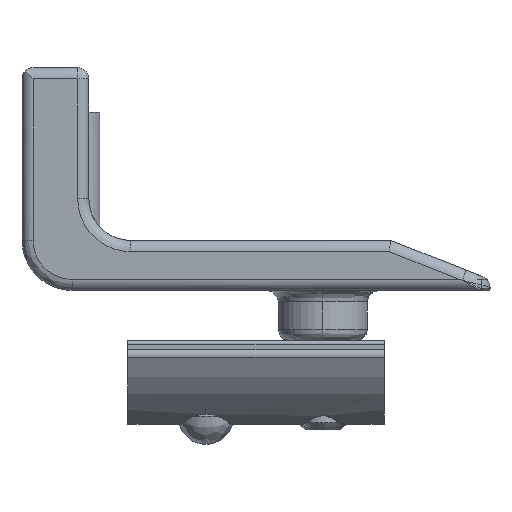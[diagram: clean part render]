
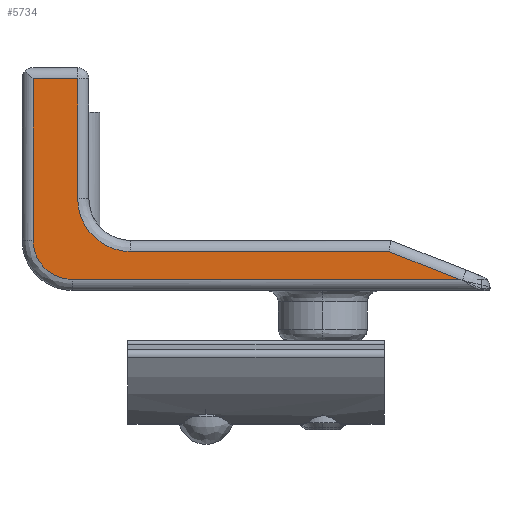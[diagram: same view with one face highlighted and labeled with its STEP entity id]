
A CAD part, front view. The second image highlights one B-rep face of the part: STEP entity #5734.
In plain terms, the highlighted planar face has unit normal (0, -1, 0) as drawn and (-1, 0, 0) by its records, which use the part's own axes.
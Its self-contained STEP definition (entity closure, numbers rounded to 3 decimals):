
#87 = EDGE_CURVE ( 'NONE', #8878, #188, #12185, .T. ) ;
#130 = EDGE_CURVE ( 'NONE', #3517, #1076, #8358, .T. ) ;
#188 = VERTEX_POINT ( 'NONE', #11809 ) ;
#366 = ORIENTED_EDGE ( 'NONE', *, *, #7724, .F. ) ;
#517 = CARTESIAN_POINT ( 'NONE',  ( -20., 14.032, 3.5 ) ) ;
#569 = DIRECTION ( 'NONE',  ( 0., -1., 0. ) ) ;
#693 = CARTESIAN_POINT ( 'NONE',  ( -20., 21., 1. ) ) ;
#817 = CARTESIAN_POINT ( 'NONE',  ( -20., 20., 19. ) ) ;
#833 = CARTESIAN_POINT ( 'NONE',  ( -20., 16.5, 1. ) ) ;
#933 = CARTESIAN_POINT ( 'NONE',  ( -20., -18.257, 1. ) ) ;
#1009 = CARTESIAN_POINT ( 'NONE',  ( -20., -21., 3.5 ) ) ;
#1076 = VERTEX_POINT ( 'NONE', #2542 ) ;
#1134 = VERTEX_POINT ( 'NONE', #5488 ) ;
#1530 = CARTESIAN_POINT ( 'NONE',  ( -20., 21., 19. ) ) ;
#1562 = VECTOR ( 'NONE', #3799, 1000. ) ;
#1572 =( BOUNDED_CURVE ( )  B_SPLINE_CURVE ( 3, ( #7290, #10350, #517, #7431 ),
 .UNSPECIFIED., .F., .F. ) 
 B_SPLINE_CURVE_WITH_KNOTS ( ( 4, 4 ),
 ( 0., 1. ),
 .UNSPECIFIED. ) 
 CURVE ( )  GEOMETRIC_REPRESENTATION_ITEM ( )  RATIONAL_B_SPLINE_CURVE ( ( 1., 0.805, 0.805, 1. ) ) 
 REPRESENTATION_ITEM ( '' )  );
#1706 = EDGE_LOOP ( 'NONE', ( #366, #11470, #11185, #11192, #4667, #11774, #2465, #4701 ) ) ;
#2066 = VECTOR ( 'NONE', #10578, 1000. ) ;
#2086 = LINE ( 'NONE', #10030, #11139 ) ;
#2465 = ORIENTED_EDGE ( 'NONE', *, *, #3986, .F. ) ;
#2542 = CARTESIAN_POINT ( 'NONE',  ( -20., -11.91, 3.5 ) ) ;
#2783 = CARTESIAN_POINT ( 'NONE',  ( -20., 21., 4.5 ) ) ;
#2819 = CARTESIAN_POINT ( 'NONE',  ( -20., 20., 4.5 ) ) ;
#2875 = VERTEX_POINT ( 'NONE', #933 ) ;
#2928 = AXIS2_PLACEMENT_3D ( 'NONE', #2783, #3771, #10638 ) ;
#3270 = EDGE_CURVE ( 'NONE', #1076, #2875, #2086, .T. ) ;
#3517 = VERTEX_POINT ( 'NONE', #8805 ) ;
#3685 = DIRECTION ( 'NONE',  ( 0., 1., 0. ) ) ;
#3771 = DIRECTION ( 'NONE',  ( 1., 0., 0. ) ) ;
#3799 = DIRECTION ( 'NONE',  ( 0., 0., -1. ) ) ;
#3851 = CARTESIAN_POINT ( 'NONE',  ( -20., 16.5, 1. ) ) ;
#3903 = VECTOR ( 'NONE', #5264, 1000. ) ;
#3986 = EDGE_CURVE ( 'NONE', #1134, #8891, #9601, .T. ) ;
#4282 = LINE ( 'NONE', #693, #8590 ) ;
#4667 = ORIENTED_EDGE ( 'NONE', *, *, #87, .F. ) ;
#4701 = ORIENTED_EDGE ( 'NONE', *, *, #5761, .F. ) ;
#4771 = CARTESIAN_POINT ( 'NONE',  ( -20., 16., 19. ) ) ;
#5145 = DIRECTION ( 'NONE',  ( 0., -0.93, -0.367 ) ) ;
#5264 = DIRECTION ( 'NONE',  ( 0., -1., 0. ) ) ;
#5488 = CARTESIAN_POINT ( 'NONE',  ( -20., 20., 4.5 ) ) ;
#5719 = PLANE ( 'NONE',  #2928 ) ;
#5734 = ADVANCED_FACE ( 'NONE', ( #7851 ), #5719, .F. ) ;
#5761 = EDGE_CURVE ( 'NONE', #8943, #1134, #5873, .T. ) ;
#5873 =( BOUNDED_CURVE ( )  B_SPLINE_CURVE ( 3, ( #833, #6742, #8724, #2819 ),
 .UNSPECIFIED., .F., .T. ) 
 B_SPLINE_CURVE_WITH_KNOTS ( ( 4, 4 ),
 ( 0., 1. ),
 .UNSPECIFIED. ) 
 CURVE ( )  GEOMETRIC_REPRESENTATION_ITEM ( )  RATIONAL_B_SPLINE_CURVE ( ( 1., 0.805, 0.805, 1. ) ) 
 REPRESENTATION_ITEM ( '' )  );
#6278 = VECTOR ( 'NONE', #569, 1000. ) ;
#6742 = CARTESIAN_POINT ( 'NONE',  ( -20., 18.55, 1. ) ) ;
#7290 = CARTESIAN_POINT ( 'NONE',  ( -20., 16., 8.25 ) ) ;
#7431 = CARTESIAN_POINT ( 'NONE',  ( -20., 11.25, 3.5 ) ) ;
#7683 = EDGE_CURVE ( 'NONE', #8891, #8878, #8896, .T. ) ;
#7724 = EDGE_CURVE ( 'NONE', #2875, #8943, #4282, .T. ) ;
#7851 = FACE_OUTER_BOUND ( 'NONE', #1706, .T. ) ;
#8358 = LINE ( 'NONE', #1009, #3903 ) ;
#8590 = VECTOR ( 'NONE', #3685, 1000. ) ;
#8622 = CARTESIAN_POINT ( 'NONE',  ( -20., 20., 4.5 ) ) ;
#8724 = CARTESIAN_POINT ( 'NONE',  ( -20., 20., 2.45 ) ) ;
#8805 = CARTESIAN_POINT ( 'NONE',  ( -20., 11.25, 3.5 ) ) ;
#8878 = VERTEX_POINT ( 'NONE', #4771 ) ;
#8891 = VERTEX_POINT ( 'NONE', #817 ) ;
#8896 = LINE ( 'NONE', #1530, #6278 ) ;
#8943 = VERTEX_POINT ( 'NONE', #3851 ) ;
#9601 = LINE ( 'NONE', #8622, #2066 ) ;
#10030 = CARTESIAN_POINT ( 'NONE',  ( -20., 16.92, 14.857 ) ) ;
#10350 = CARTESIAN_POINT ( 'NONE',  ( -20., 16., 5.468 ) ) ;
#10390 = CARTESIAN_POINT ( 'NONE',  ( -20., 16., 4.5 ) ) ;
#10578 = DIRECTION ( 'NONE',  ( 0., 0., 1. ) ) ;
#10638 = DIRECTION ( 'NONE',  ( 0., 0., -1. ) ) ;
#11139 = VECTOR ( 'NONE', #5145, 1000. ) ;
#11185 = ORIENTED_EDGE ( 'NONE', *, *, #130, .F. ) ;
#11192 = ORIENTED_EDGE ( 'NONE', *, *, #11358, .F. ) ;
#11358 = EDGE_CURVE ( 'NONE', #188, #3517, #1572, .T. ) ;
#11470 = ORIENTED_EDGE ( 'NONE', *, *, #3270, .F. ) ;
#11774 = ORIENTED_EDGE ( 'NONE', *, *, #7683, .F. ) ;
#11809 = CARTESIAN_POINT ( 'NONE',  ( -20., 16., 8.25 ) ) ;
#12185 = LINE ( 'NONE', #10390, #1562 ) ;
